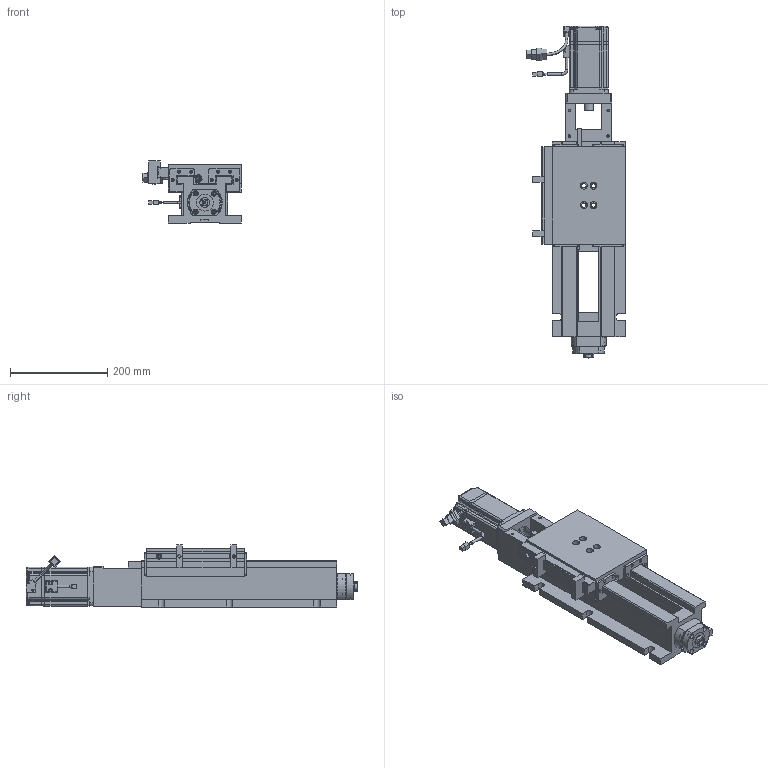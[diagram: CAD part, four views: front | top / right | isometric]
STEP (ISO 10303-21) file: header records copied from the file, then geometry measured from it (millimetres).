
FILE_DESCRIPTION( ( 'Unknown' ), '1' );
FILE_NAME( 'Z:/惠雯/BS-150-200-400.stp', 'Unknown', ( 'Unknown' ), ( 'Unknown' ), 'PSStep 17.0.49', 'Unknown', ' ' );
FILE_SCHEMA( ( 'AUTOMOTIVE_DESIGN { 1 0 10303 214 1 1 1 1 }' ) );
Length unit declared in the file: millimetre
Products named in the file (28): Assem1; HF2040007; HF2040007-oa0; HS150005-3; HS150005-1; HS150005-2; HS150005-4; HS150011; HA160014; HA160014-oa1; BS150002; BS150001; HS150006; HS150003; HS150003-oa2; HS150004; HS150004-oa3; HALS150011; 7201(斜角滾珠軸承); 7201(斜角滾珠軸承)-oa4; HALS150016; YSR-M12x1; 油封(TC20x35x8); HALS150012; BS150004; ECMA-CX0807ES
Assembly tree (27 placements, depth 2):
  Assem1
    HF2040007
    HF2040007-oa0
    HS150005-3
    HS150005-1
    HS150005-2
    HS150005-4
    HS150011
    HA160014
    HA160014-oa1
    BS150002
    BS150001
    HS150006
    HS150003
    HS150003-oa2
    HS150004
    HS150004-oa3
    HALS150011
    7201(斜角滾珠軸承)
    7201(斜角滾珠軸承)
    7201(斜角滾珠軸承)-oa4
    7201(斜角滾珠軸承)-oa4
    HALS150016
    YSR-M12x1
    油封(TC20x35x8)
    HALS150012
    BS150004
    ECMA-CX0807ES
Bounding box: 202.27 x 682.3 x 127.54 mm (x, y, z)
Volume: 4552868.3 mm3; surface area: 718911.3 mm2
Topology: 27 solids, 28 shells, 1193 faces, 3102 edges, 1983 vertices
Faces by surface type: plane 580, cylinder 432, cone 92, torus 40, sphere 30, bspline 15, extrusion 4
Full cylindrical faces by diameter (mm): 1.5 x4, 3.3 x4, 3.5 x1, 4.134 x28, 4.917 x78, 5.3 x2, 6 x15, 6.6 x8, 6.647 x2, 7 x26, 9 x4, 10.5 x6, 10.917 x1, 11 x16, 12 x3, 14 x4, 16 x3, 17.927 x2, 18.4 x2, 19 x1, 19.5 x1, 20 x3, 20.5 x1, 25 x2, 25.6 x2, 28 x3, 32 x4, 33 x1, 35 x3, 44 x1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
Entity records: 52891 total; most frequent: CARTESIAN_POINT 8229, DIRECTION 5716, ORIENTED_EDGE 5142, PRESENTATION_STYLE_ASSIGNMENT 2743, COLOUR_RGB 2743, EDGE_CURVE 2571, STYLED_ITEM 2286, AXIS2_PLACEMENT_3D 2138
